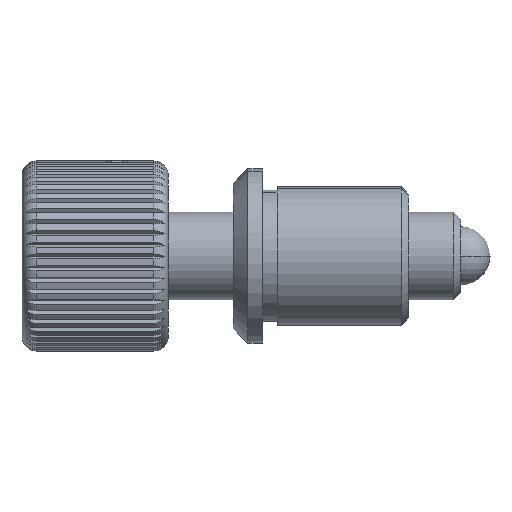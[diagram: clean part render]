
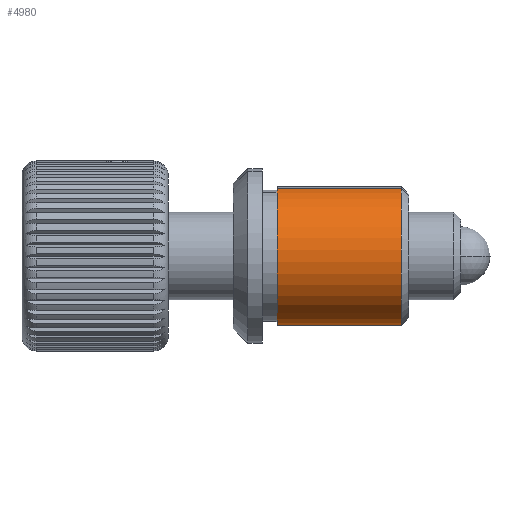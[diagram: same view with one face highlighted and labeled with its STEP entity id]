
A CAD part, front view. The second image highlights one B-rep face of the part: STEP entity #4980.
In plain terms, the highlighted cylindrical face has radius 4.75 mm (diameter 9.5 mm), a partial arc.
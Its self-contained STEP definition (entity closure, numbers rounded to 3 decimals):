
#31 = DIRECTION ( 'NONE',  ( -1., 0., 0. ) ) ;
#41 = CARTESIAN_POINT ( 'NONE',  ( 12.722, 1.234, -4.587 ) ) ;
#111 = DIRECTION ( 'NONE',  ( -1., 0., 0. ) ) ;
#469 = VECTOR ( 'NONE', #31, 1000. ) ;
#489 = DIRECTION ( 'NONE',  ( 0., -0.26, 0.966 ) ) ;
#1275 = DIRECTION ( 'NONE',  ( -1., 0., 0. ) ) ;
#1433 = ORIENTED_EDGE ( 'NONE', *, *, #8319, .F. ) ;
#1697 = LINE ( 'NONE', #7117, #469 ) ;
#1838 = ORIENTED_EDGE ( 'NONE', *, *, #2222, .F. ) ;
#2114 = ORIENTED_EDGE ( 'NONE', *, *, #5584, .T. ) ;
#2222 = EDGE_CURVE ( 'NONE', #2658, #9670, #9467, .T. ) ;
#2367 = CARTESIAN_POINT ( 'NONE',  ( 25.938, 1.234, -4.587 ) ) ;
#2658 = VERTEX_POINT ( 'NONE', #4301 ) ;
#3822 = DIRECTION ( 'NONE',  ( 0., -0.26, 0.966 ) ) ;
#3839 = CYLINDRICAL_SURFACE ( 'NONE', #6860, 4.75 ) ;
#4301 = CARTESIAN_POINT ( 'NONE',  ( 17.438, 1.234, -4.587 ) ) ;
#4456 = ORIENTED_EDGE ( 'NONE', *, *, #7486, .T. ) ;
#4470 = FACE_OUTER_BOUND ( 'NONE', #9666, .T. ) ;
#4555 = CARTESIAN_POINT ( 'NONE',  ( 25.938, 0., 0. ) ) ;
#4980 = ADVANCED_FACE ( 'NONE', ( #4470 ), #3839, .T. ) ;
#5053 = VERTEX_POINT ( 'NONE', #6065 ) ;
#5262 = AXIS2_PLACEMENT_3D ( 'NONE', #4555, #8580, #3822 ) ;
#5584 = EDGE_CURVE ( 'NONE', #7789, #5053, #9292, .T. ) ;
#5772 = LINE ( 'NONE', #41, #9738 ) ;
#6065 = CARTESIAN_POINT ( 'NONE',  ( 25.938, -1.234, 4.587 ) ) ;
#6687 = DIRECTION ( 'NONE',  ( -1., 0., 0. ) ) ;
#6727 = CARTESIAN_POINT ( 'NONE',  ( 12.722, 0., 0. ) ) ;
#6860 = AXIS2_PLACEMENT_3D ( 'NONE', #6727, #6687, #9009 ) ;
#7117 = CARTESIAN_POINT ( 'NONE',  ( 12.722, -1.234, 4.587 ) ) ;
#7288 = AXIS2_PLACEMENT_3D ( 'NONE', #10044, #1275, #489 ) ;
#7486 = EDGE_CURVE ( 'NONE', #5053, #9670, #1697, .T. ) ;
#7789 = VERTEX_POINT ( 'NONE', #2367 ) ;
#8319 = EDGE_CURVE ( 'NONE', #7789, #2658, #5772, .T. ) ;
#8580 = DIRECTION ( 'NONE',  ( -1., 0., 0. ) ) ;
#9009 = DIRECTION ( 'NONE',  ( 0., -0.26, 0.966 ) ) ;
#9209 = CARTESIAN_POINT ( 'NONE',  ( 17.438, -1.234, 4.587 ) ) ;
#9292 = CIRCLE ( 'NONE', #5262, 4.75 ) ;
#9467 = CIRCLE ( 'NONE', #7288, 4.75 ) ;
#9666 = EDGE_LOOP ( 'NONE', ( #1433, #2114, #4456, #1838 ) ) ;
#9670 = VERTEX_POINT ( 'NONE', #9209 ) ;
#9738 = VECTOR ( 'NONE', #111, 1000. ) ;
#10044 = CARTESIAN_POINT ( 'NONE',  ( 17.438, 0., 0. ) ) ;
